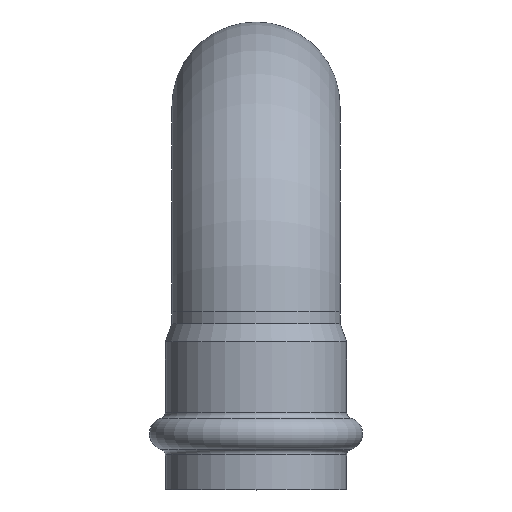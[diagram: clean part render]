
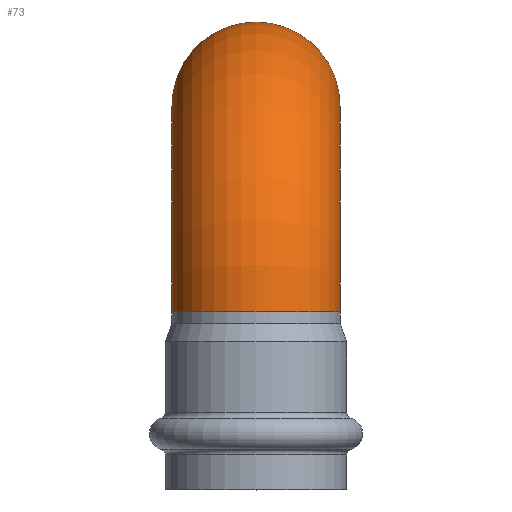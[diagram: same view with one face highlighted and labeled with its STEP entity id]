
A CAD part, top view. The second image highlights one B-rep face of the part: STEP entity #73.
In plain terms, the highlighted toroidal (fillet/blend) face has major radius 51.5 mm and minor radius 21 mm.
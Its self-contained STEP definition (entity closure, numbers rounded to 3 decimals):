
#73=ADVANCED_FACE('',(#254,#256),#258,.T.);
#254=FACE_BOUND('',#255,.T.);
#255=EDGE_LOOP('',(#310,#311));
#256=FACE_OUTER_BOUND('',#257,.T.);
#257=EDGE_LOOP('',(#312));
#258=TOROIDAL_SURFACE('',#259,51.5,21.);
#259=AXIS2_PLACEMENT_3D('',#260,#261,#262);
#260=CARTESIAN_POINT('',(0.,44.5,-51.5));
#261=DIRECTION('',(-1.,0.,0.));
#262=DIRECTION('',(0.,0.,1.));
#310=ORIENTED_EDGE('',*,*,#337,.T.);
#311=ORIENTED_EDGE('',*,*,#336,.T.);
#312=ORIENTED_EDGE('',*,*,#335,.F.);
#335=EDGE_CURVE('',#382,#382,#383,.T.);
#336=EDGE_CURVE('',#384,#385,#386,.T.);
#337=EDGE_CURVE('',#385,#384,#387,.T.);
#382=VERTEX_POINT('',#498);
#383=CIRCLE('',#499,21.);
#384=VERTEX_POINT('',#503);
#385=VERTEX_POINT('',#504);
#386=CIRCLE('',#505,21.);
#387=CIRCLE('',#509,21.);
#498=CARTESIAN_POINT('',(-21.,96.,-51.5));
#499=AXIS2_PLACEMENT_3D('',#500,#501,#502);
#500=CARTESIAN_POINT('',(0.,96.,-51.5));
#501=DIRECTION('',(0.,0.,-1.));
#502=DIRECTION('',(-1.,0.,0.));
#503=CARTESIAN_POINT('',(-21.,44.5,0.));
#504=CARTESIAN_POINT('',(0.,44.5,21.));
#505=AXIS2_PLACEMENT_3D('',#506,#507,#508);
#506=CARTESIAN_POINT('',(0.,44.5,0.));
#507=DIRECTION('',(0.,1.,0.));
#508=DIRECTION('',(-1.,0.,0.));
#509=AXIS2_PLACEMENT_3D('',#510,#511,#512);
#510=CARTESIAN_POINT('',(0.,44.5,0.));
#511=DIRECTION('',(0.,1.,0.));
#512=DIRECTION('',(0.,0.,1.));
